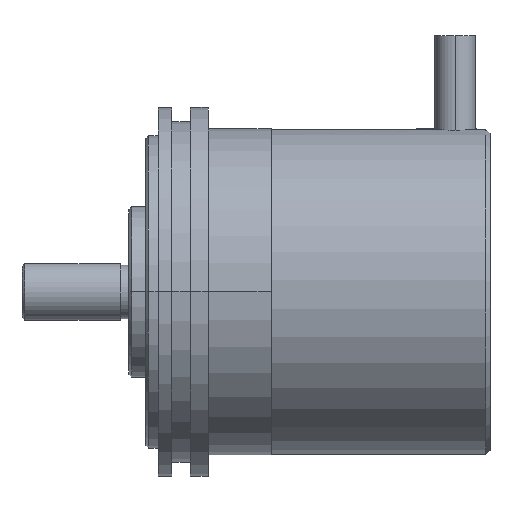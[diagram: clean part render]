
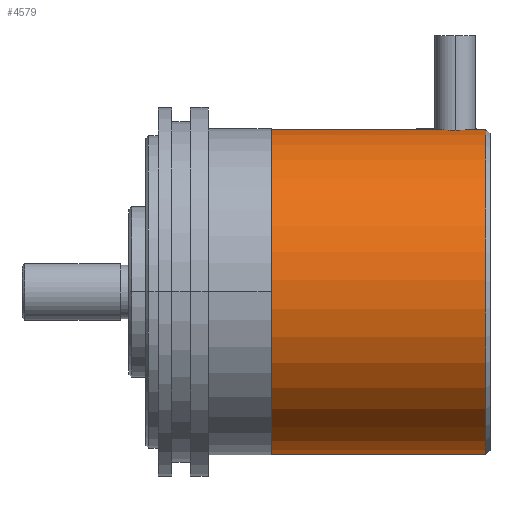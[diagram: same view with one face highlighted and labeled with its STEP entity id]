
A CAD part, top view. The second image highlights one B-rep face of the part: STEP entity #4579.
In plain terms, the highlighted cylindrical face has radius 18.25 mm (diameter 36.5 mm), a partial arc.
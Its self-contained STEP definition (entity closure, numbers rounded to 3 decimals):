
#102 = VECTOR ( 'NONE', #4326, 1000. ) ;
#133 = CARTESIAN_POINT ( 'NONE',  ( 49.849, 37.249, 23.094 ) ) ;
#339 = CARTESIAN_POINT ( 'NONE',  ( 47.759, 37.296, 22.694 ) ) ;
#506 = CARTESIAN_POINT ( 'NONE',  ( 49.467, 37.239, 23.167 ) ) ;
#542 = LINE ( 'NONE', #4468, #551 ) ;
#549 = AXIS2_PLACEMENT_3D ( 'NONE', #1116, #3918, #1511 ) ;
#551 = VECTOR ( 'NONE', #2052, 1000. ) ;
#756 = AXIS2_PLACEMENT_3D ( 'NONE', #1813, #2216, #3820 ) ;
#769 = VERTEX_POINT ( 'NONE', #4850 ) ;
#897 = CARTESIAN_POINT ( 'NONE',  ( 49.207, 37.238, 23.177 ) ) ;
#1029 = LINE ( 'NONE', #4118, #1309 ) ;
#1032 = LINE ( 'NONE', #2337, #102 ) ;
#1096 = CARTESIAN_POINT ( 'NONE',  ( 49.207, 37.238, 23.177 ) ) ;
#1113 = CARTESIAN_POINT ( 'NONE',  ( 49.078, 37.238, 23.177 ) ) ;
#1116 = CARTESIAN_POINT ( 'NONE',  ( 28.678, 19.148, 20.766 ) ) ;
#1285 = CARTESIAN_POINT ( 'NONE',  ( 50.657, 37.296, 22.694 ) ) ;
#1309 = VECTOR ( 'NONE', #1736, 1000. ) ;
#1429 = CIRCLE ( 'NONE', #3944, 18.25 ) ;
#1511 = DIRECTION ( 'NONE',  ( 0., -0.994, -0.106 ) ) ;
#1736 = DIRECTION ( 'NONE',  ( 1., 0., 0. ) ) ;
#1813 = CARTESIAN_POINT ( 'NONE',  ( 53.178, 19.148, 20.766 ) ) ;
#1938 = CARTESIAN_POINT ( 'NONE',  ( 48.947, 37.239, 23.167 ) ) ;
#2028 = VERTEX_POINT ( 'NONE', #3921 ) ;
#2052 = DIRECTION ( 'NONE',  ( 1., 0., 0. ) ) ;
#2090 = FACE_OUTER_BOUND ( 'NONE', #3312, .T. ) ;
#2216 = DIRECTION ( 'NONE',  ( 1., 0., 0. ) ) ;
#2236 = B_SPLINE_CURVE_WITH_KNOTS ( 'NONE', 3,
 ( #1096, #1113, #1938, #4782, #2333, #5174, #2739, #339 ),
 .UNSPECIFIED., .F., .F.,
 ( 4, 2, 2, 4 ),
 ( 0.5, 0.525, 0.551, 0.602 ),
 .UNSPECIFIED. ) ;
#2292 = VERTEX_POINT ( 'NONE', #3902 ) ;
#2333 = CARTESIAN_POINT ( 'NONE',  ( 48.566, 37.249, 23.094 ) ) ;
#2337 = CARTESIAN_POINT ( 'NONE',  ( 53.178, 37.296, 22.694 ) ) ;
#2404 = CYLINDRICAL_SURFACE ( 'NONE', #756, 18.25 ) ;
#2450 = DIRECTION ( 'NONE',  ( 0., -0.994, -0.106 ) ) ;
#2470 = DIRECTION ( 'NONE',  ( 1., 0., 0. ) ) ;
#2486 = CARTESIAN_POINT ( 'NONE',  ( 52.678, 19.148, 20.766 ) ) ;
#2505 = CARTESIAN_POINT ( 'NONE',  ( 50.217, 37.264, 22.972 ) ) ;
#2513 = CIRCLE ( 'NONE', #549, 18.25 ) ;
#2579 = VERTEX_POINT ( 'NONE', #3651 ) ;
#2623 = CARTESIAN_POINT ( 'NONE',  ( 50.657, 37.296, 22.694 ) ) ;
#2739 = CARTESIAN_POINT ( 'NONE',  ( 47.965, 37.279, 22.849 ) ) ;
#2838 = VERTEX_POINT ( 'NONE', #3457 ) ;
#2877 = ORIENTED_EDGE ( 'NONE', *, *, #4405, .F. ) ;
#2890 = ORIENTED_EDGE ( 'NONE', *, *, #4608, .T. ) ;
#2912 = ORIENTED_EDGE ( 'NONE', *, *, #4869, .T. ) ;
#2916 = CARTESIAN_POINT ( 'NONE',  ( 49.724, 37.245, 23.125 ) ) ;
#2925 = ORIENTED_EDGE ( 'NONE', *, *, #4165, .F. ) ;
#2926 = ORIENTED_EDGE ( 'NONE', *, *, #4691, .F. ) ;
#2945 = ORIENTED_EDGE ( 'NONE', *, *, #4815, .T. ) ;
#2961 = ORIENTED_EDGE ( 'NONE', *, *, #4385, .T. ) ;
#3312 = EDGE_LOOP ( 'NONE', ( #2877, #2890, #2912, #2925, #2926, #2945, #2961 ) ) ;
#3325 = CARTESIAN_POINT ( 'NONE',  ( 49.336, 37.238, 23.177 ) ) ;
#3457 = CARTESIAN_POINT ( 'NONE',  ( 49.207, 37.238, 23.177 ) ) ;
#3651 = CARTESIAN_POINT ( 'NONE',  ( 28.678, 37.296, 22.694 ) ) ;
#3695 = CARTESIAN_POINT ( 'NONE',  ( 52.678, 37.296, 22.694 ) ) ;
#3820 = DIRECTION ( 'NONE',  ( 0., -0.994, -0.106 ) ) ;
#3902 = CARTESIAN_POINT ( 'NONE',  ( 28.678, 1., 18.837 ) ) ;
#3918 = DIRECTION ( 'NONE',  ( 1., 0., 0. ) ) ;
#3921 = CARTESIAN_POINT ( 'NONE',  ( 47.759, 37.296, 22.694 ) ) ;
#3944 = AXIS2_PLACEMENT_3D ( 'NONE', #2486, #2470, #2450 ) ;
#4087 = VERTEX_POINT ( 'NONE', #2623 ) ;
#4118 = CARTESIAN_POINT ( 'NONE',  ( 53.178, 1., 18.837 ) ) ;
#4165 = EDGE_CURVE ( 'NONE', #4495, #769, #1429, .T. ) ;
#4326 = DIRECTION ( 'NONE',  ( 1., 0., 0. ) ) ;
#4385 = EDGE_CURVE ( 'NONE', #2838, #2028, #2236, .T. ) ;
#4405 = EDGE_CURVE ( 'NONE', #2579, #2028, #542, .T. ) ;
#4468 = CARTESIAN_POINT ( 'NONE',  ( 53.178, 37.296, 22.694 ) ) ;
#4495 = VERTEX_POINT ( 'NONE', #3695 ) ;
#4545 = CARTESIAN_POINT ( 'NONE',  ( 50.451, 37.279, 22.849 ) ) ;
#4579 = ADVANCED_FACE ( 'NONE', ( #2090 ), #2404, .T. ) ;
#4608 = EDGE_CURVE ( 'NONE', #2579, #2292, #2513, .T. ) ;
#4691 = EDGE_CURVE ( 'NONE', #4087, #4495, #1032, .T. ) ;
#4782 = CARTESIAN_POINT ( 'NONE',  ( 48.691, 37.245, 23.125 ) ) ;
#4815 = EDGE_CURVE ( 'NONE', #4087, #2838, #5144, .T. ) ;
#4850 = CARTESIAN_POINT ( 'NONE',  ( 52.678, 1., 18.837 ) ) ;
#4869 = EDGE_CURVE ( 'NONE', #2292, #769, #1029, .T. ) ;
#5144 = B_SPLINE_CURVE_WITH_KNOTS ( 'NONE', 3,
 ( #1285, #4545, #2505, #133, #2916, #506, #3325, #897 ),
 .UNSPECIFIED., .F., .F.,
 ( 4, 2, 2, 4 ),
 ( 0.398, 0.449, 0.474, 0.5 ),
 .UNSPECIFIED. ) ;
#5174 = CARTESIAN_POINT ( 'NONE',  ( 48.199, 37.264, 22.972 ) ) ;
